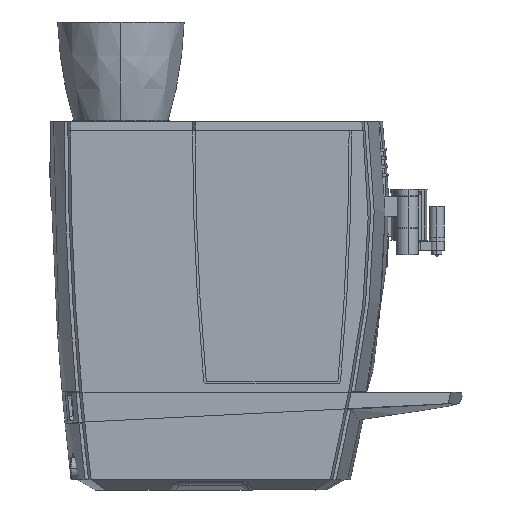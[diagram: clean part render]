
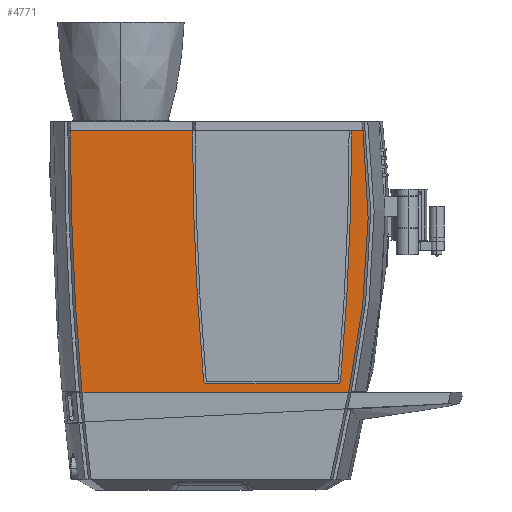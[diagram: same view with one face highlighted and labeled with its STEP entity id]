
A CAD part, left-side view. The second image highlights one B-rep face of the part: STEP entity #4771.
In plain terms, the highlighted planar face has unit normal (-1, 0, 0).
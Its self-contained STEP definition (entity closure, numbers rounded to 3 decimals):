
#1165=B_SPLINE_CURVE_WITH_KNOTS('',3,(#33067,#33068,#33069,#33070,#33071,
#33072,#33073,#33074,#33075,#33076,#33077,#33078,#33079,#33080),.UNSPECIFIED.,
 .F.,.F.,(4,2,2,2,2,2,4),(0.,0.25,0.375,0.5,0.75,0.875,1.),.UNSPECIFIED.);
#3246=CIRCLE('',#25054,3528.26);
#3250=CIRCLE('',#25059,5.);
#3252=CIRCLE('',#25062,5.);
#3254=CIRCLE('',#25074,3381.513);
#3256=CIRCLE('',#25078,3381.513);
#4771=ADVANCED_FACE('',(#6462),#5859,.F.);
#5859=PLANE('',#25081);
#6462=FACE_OUTER_BOUND('',#7715,.T.);
#7715=EDGE_LOOP('',(#10128,#10129,#10130,#10131,#10132,#10133,#10134,#10135,
#10136,#10137));
#10128=ORIENTED_EDGE('',*,*,#19232,.T.);
#10129=ORIENTED_EDGE('',*,*,#19190,.F.);
#10130=ORIENTED_EDGE('',*,*,#19234,.T.);
#10131=ORIENTED_EDGE('',*,*,#19194,.F.);
#10132=ORIENTED_EDGE('',*,*,#19228,.T.);
#10133=ORIENTED_EDGE('',*,*,#19235,.F.);
#10134=ORIENTED_EDGE('',*,*,#19185,.F.);
#10135=ORIENTED_EDGE('',*,*,#19208,.T.);
#10136=ORIENTED_EDGE('',*,*,#19225,.F.);
#10137=ORIENTED_EDGE('',*,*,#19236,.F.);
#16482=VERTEX_POINT('',#32901);
#16483=VERTEX_POINT('',#32903);
#16487=VERTEX_POINT('',#32912);
#16488=VERTEX_POINT('',#32914);
#16491=VERTEX_POINT('',#32921);
#16492=VERTEX_POINT('',#32923);
#16501=VERTEX_POINT('',#32981);
#16512=VERTEX_POINT('',#33066);
#16514=VERTEX_POINT('',#33154);
#16516=VERTEX_POINT('',#33163);
#19185=EDGE_CURVE('',#16482,#16483,#3246,.T.);
#19190=EDGE_CURVE('',#16487,#16488,#3250,.T.);
#19194=EDGE_CURVE('',#16491,#16492,#3252,.T.);
#19208=EDGE_CURVE('',#16482,#16501,#22458,.T.);
#19225=EDGE_CURVE('',#16512,#16501,#1165,.T.);
#19228=EDGE_CURVE('',#16491,#16514,#3254,.T.);
#19232=EDGE_CURVE('',#16516,#16488,#3256,.T.);
#19234=EDGE_CURVE('',#16487,#16492,#22471,.T.);
#19235=EDGE_CURVE('',#16483,#16514,#22472,.T.);
#19236=EDGE_CURVE('',#16516,#16512,#22473,.T.);
#22458=LINE('',#32982,#23572);
#22471=LINE('',#33166,#23585);
#22472=LINE('',#33168,#23586);
#22473=LINE('',#33169,#23587);
#23572=VECTOR('',#27787,1.);
#23585=VECTOR('',#27824,1.);
#23586=VECTOR('',#27827,1.);
#23587=VECTOR('',#27828,1.);
#25054=AXIS2_PLACEMENT_3D('',#32902,#27748,#27749);
#25059=AXIS2_PLACEMENT_3D('',#32913,#27759,#27760);
#25062=AXIS2_PLACEMENT_3D('',#32922,#27767,#27768);
#25074=AXIS2_PLACEMENT_3D('',#33155,#27809,#27810);
#25078=AXIS2_PLACEMENT_3D('',#33162,#27819,#27820);
#25081=AXIS2_PLACEMENT_3D('',#33170,#27829,#27830);
#27748=DIRECTION('',(1.,0.,0.));
#27749=DIRECTION('',(0.,0.,-1.));
#27759=DIRECTION('',(-1.,0.,0.));
#27760=DIRECTION('',(0.,0.,-1.));
#27767=DIRECTION('',(-1.,0.,0.));
#27768=DIRECTION('',(0.,0.,-1.));
#27787=DIRECTION('',(0.,-1.,0.));
#27809=DIRECTION('',(1.,0.,0.));
#27810=DIRECTION('',(0.,0.,-1.));
#27819=DIRECTION('',(1.,0.,0.));
#27820=DIRECTION('',(0.,0.,-1.));
#27824=DIRECTION('',(0.,1.,0.));
#27827=DIRECTION('',(0.,-1.,0.));
#27828=DIRECTION('',(0.,-1.,0.));
#27829=DIRECTION('',(1.,0.,0.));
#27830=DIRECTION('',(0.,-1.,0.));
#32901=CARTESIAN_POINT('',(-160.,367.76,35.));
#32902=CARTESIAN_POINT('',(-160.,-3146.5,349.));
#32903=CARTESIAN_POINT('',(-160.,381.76,349.));
#32912=CARTESIAN_POINT('',(-160.,61.913,45.));
#32913=CARTESIAN_POINT('',(-160.,61.913,50.));
#32914=CARTESIAN_POINT('',(-160.,56.933,49.557));
#32921=CARTESIAN_POINT('',(-160.,221.624,49.557));
#32922=CARTESIAN_POINT('',(-160.,216.643,50.));
#32923=CARTESIAN_POINT('',(-160.,216.643,45.));
#32981=CARTESIAN_POINT('',(-160.,47.364,35.));
#32982=CARTESIAN_POINT('',(-160.,-150.,35.));
#33066=CARTESIAN_POINT('',(-160.,29.934,349.));
#33067=CARTESIAN_POINT('',(-160.,30.017,348.989));
#33068=CARTESIAN_POINT('',(-160.,26.487,322.797));
#33069=CARTESIAN_POINT('',(-160.,24.465,296.562));
#33070=CARTESIAN_POINT('',(-160.,23.674,257.148));
#33071=CARTESIAN_POINT('',(-160.,23.789,243.999));
#33072=CARTESIAN_POINT('',(-160.,24.431,217.69));
#33073=CARTESIAN_POINT('',(-160.,25.,204.524));
#33074=CARTESIAN_POINT('',(-160.,27.457,165.034));
#33075=CARTESIAN_POINT('',(-160.,30.084,138.842));
#33076=CARTESIAN_POINT('',(-160.,35.49,99.756));
#33077=CARTESIAN_POINT('',(-160.,37.536,86.76));
#33078=CARTESIAN_POINT('',(-160.,42.118,60.837));
#33079=CARTESIAN_POINT('',(-160.,44.703,47.915));
#33080=CARTESIAN_POINT('',(-160.,47.42,35.012));
#33154=CARTESIAN_POINT('',(-160.,234.908,349.));
#33155=CARTESIAN_POINT('',(-160.,-3146.605,349.));
#33162=CARTESIAN_POINT('',(-160.,3425.161,349.));
#33163=CARTESIAN_POINT('',(-160.,43.649,349.));
#33166=CARTESIAN_POINT('',(-160.,-150.,45.));
#33168=CARTESIAN_POINT('',(-160.,145.,349.));
#33169=CARTESIAN_POINT('',(-160.,145.,349.));
#33170=CARTESIAN_POINT('',(-160.,-150.,1163.444));
